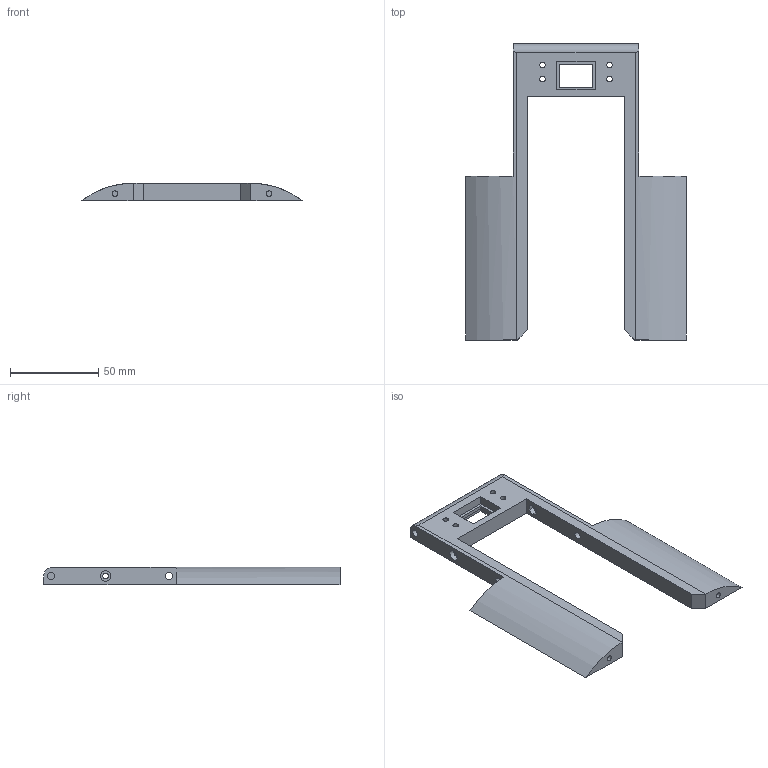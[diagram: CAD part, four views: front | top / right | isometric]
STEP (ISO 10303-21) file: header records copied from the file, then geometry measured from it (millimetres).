
FILE_DESCRIPTION(/* description */ (''),/* implementation_level */ '2;1');
FILE_NAME(/* name */ '1-07-1 Top rear.step',/* time_stamp */ '2025-05-10T21:33:45+02:00',/* author */ (''),/* organization */ (''),/* preprocessor_version */ 'ST-DEVELOPER v20.1',/* originating_system */ 'Autodesk Translation Framework v14.4.0.0',/* authorisation */ '');
FILE_SCHEMA (('AUTOMOTIVE_DESIGN { 1 0 10303 214 3 1 1 }'));
Length unit declared in the file: millimetre
Products named in the file (1): 1-07-1 Top rear
Bounding box: 125.19 x 167.98 x 10 mm (x, y, z)
Volume: 49213.8 mm3; surface area: 28961.5 mm2
Topology: 1 solids, 1 shells, 102 faces, 251 edges, 165 vertices
Faces by surface type: plane 67, cylinder 31, cone 4
Full cylindrical faces by diameter (mm): 3.2 x8, 4.1 x8, 6 x8
Entity records: 3108 total; most frequent: DIRECTION 532, CARTESIAN_POINT 531, ORIENTED_EDGE 502, EDGE_CURVE 251, AXIS2_PLACEMENT_3D 180, LINE 172, VECTOR 172, VERTEX_POINT 165
